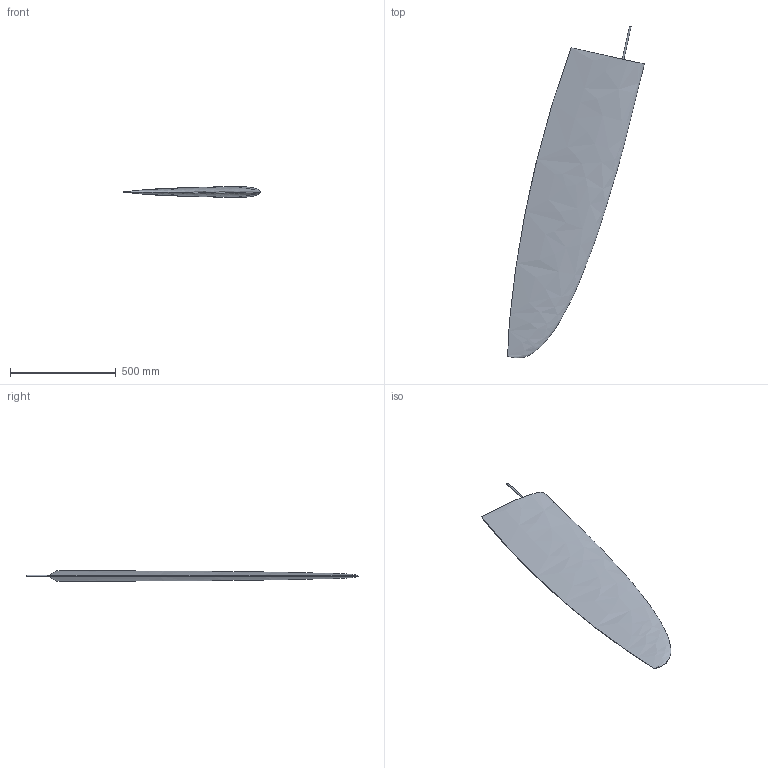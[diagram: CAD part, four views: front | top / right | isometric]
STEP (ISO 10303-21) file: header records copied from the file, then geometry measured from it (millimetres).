
FILE_DESCRIPTION (( 'STEP AP214' ), '1' );
FILE_NAME ('RUD31R.STEP', '2011-11-30T09:45:50', ( '' ), ( '' ), 'SwSTEP 2.0', 'SolidWorks 2011', '' );
FILE_SCHEMA (( 'AUTOMOTIVE_DESIGN' ));
Length unit declared in the file: millimetre
Products named in the file (1): RUD31R
Bounding box: 645.55 x 1569.38 x 50.04 mm (x, y, z)
Volume: 14088179 mm3; surface area: 1003167.1 mm2
Topology: 1 solids, 1 shells, 9 faces, 18 edges, 10 vertices
Faces by surface type: bspline 4, plane 3, cylinder 2
Entity records: 1768 total; most frequent: CARTESIAN_POINT 1580, ORIENTED_EDGE 32, DIRECTION 24, EDGE_CURVE 16, VERTEX_POINT 10, EDGE_LOOP 10, AXIS2_PLACEMENT_3D 10, ADVANCED_FACE 9
